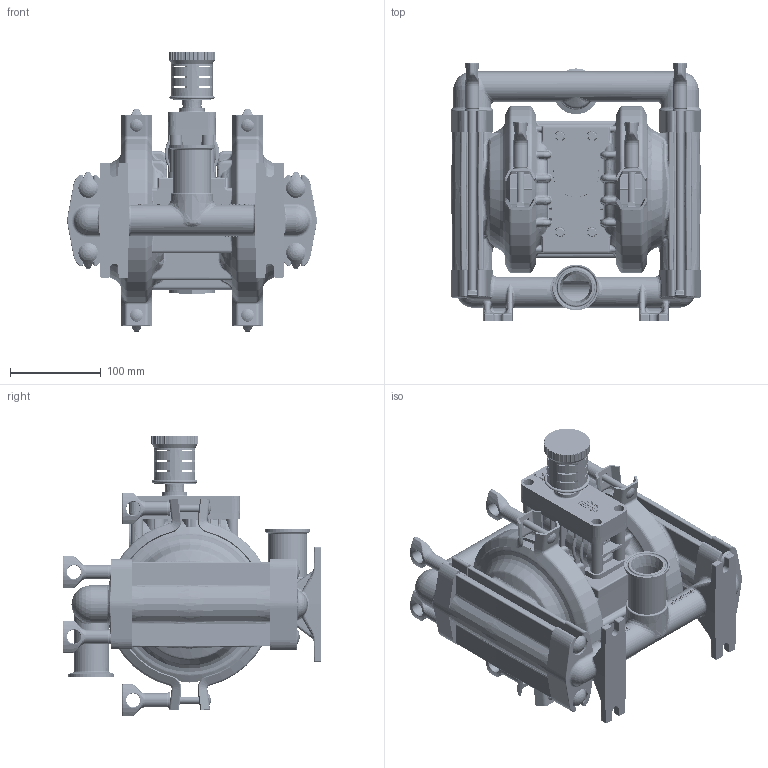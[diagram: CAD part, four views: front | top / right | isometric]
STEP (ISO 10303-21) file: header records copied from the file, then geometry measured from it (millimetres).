
FILE_DESCRIPTION((''),'2;1');
FILE_NAME('P2_CLAMPED_SS_0070_TO_SW0001','2012-02-13T',('Nathan.Hale'),(''),'PRO/ENGINEER BY PARAMETRIC TECHNOLOGY CORPORATION, 2011180','PRO/ENGINEER BY PARAMETRIC TECHNOLOGY CORPORATION, 2011180','');
FILE_SCHEMA(('CONFIG_CONTROL_DESIGN'));
Products named in the file (1): P2_CLAMPED_SS_0070_TO_SW0001
Bounding box: 274.83 x 284.05 x 308.87 mm (x, y, z)
Volume: 2872659 mm3; surface area: 931441.5 mm2
Topology: 8 solids, 8 shells, 7442 faces, 19139 edges, 11886 vertices
Faces by surface type: plane 4012, cylinder 1374, bspline 1035, torus 452, cone 331, sphere 206, extrusion 32
Entity records: 405215 total; most frequent: CARTESIAN_POINT 232774, ORIENTED_EDGE 38172, DIRECTION 32540, EDGE_CURVE 19086, VERTEX_POINT 11886, VECTOR 11632, LINE 11600, AXIS2_PLACEMENT_3D 10454
